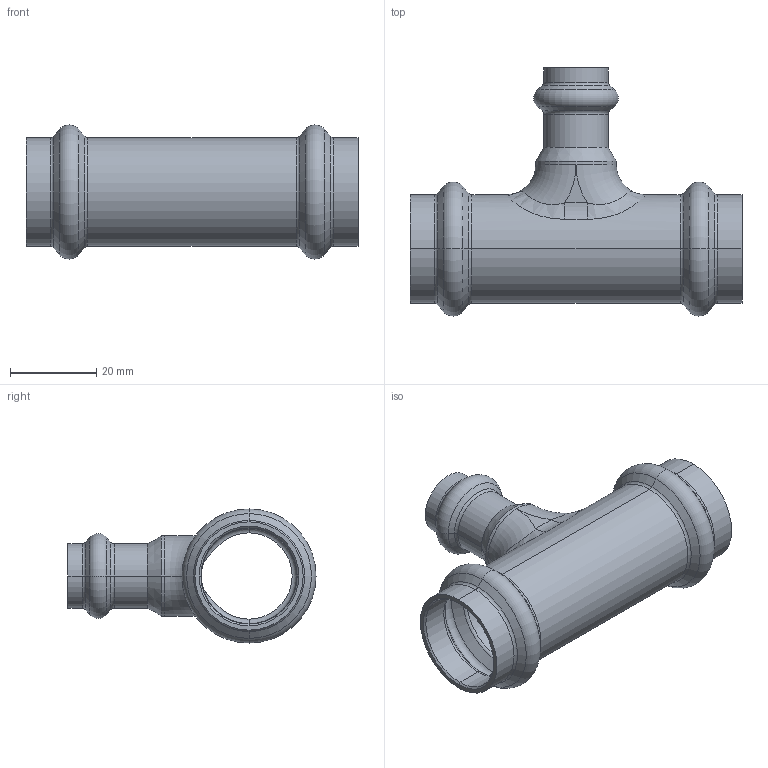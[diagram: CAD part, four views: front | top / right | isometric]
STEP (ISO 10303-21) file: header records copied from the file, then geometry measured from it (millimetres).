
FILE_DESCRIPTION (( 'STEP AP203' ), '1' );
FILE_NAME ('SP5130 Ø22-12-22.STEP', '2017-04-25T14:24:06', ( '' ), ( '' ), 'SwSTEP 2.0', 'SolidWorks 2016', '' );
FILE_SCHEMA (( 'CONFIG_CONTROL_DESIGN' ));
Length unit declared in the file: millimetre
Products named in the file (1): SP5130 Ø22-12-22
Bounding box: 77 x 57.55 x 31.1 mm (x, y, z)
Volume: 13020.2 mm3; surface area: 15507.7 mm2
Topology: 1 solids, 1 shells, 130 faces, 274 edges, 144 vertices
Faces by surface type: torus 46, cone 36, cylinder 35, plane 7, bspline 6
Entity records: 4849 total; most frequent: CARTESIAN_POINT 1971, DIRECTION 674, ORIENTED_EDGE 540, AXIS2_PLACEMENT_3D 301, EDGE_CURVE 270, CIRCLE 176, VERTEX_POINT 144, EDGE_LOOP 136
